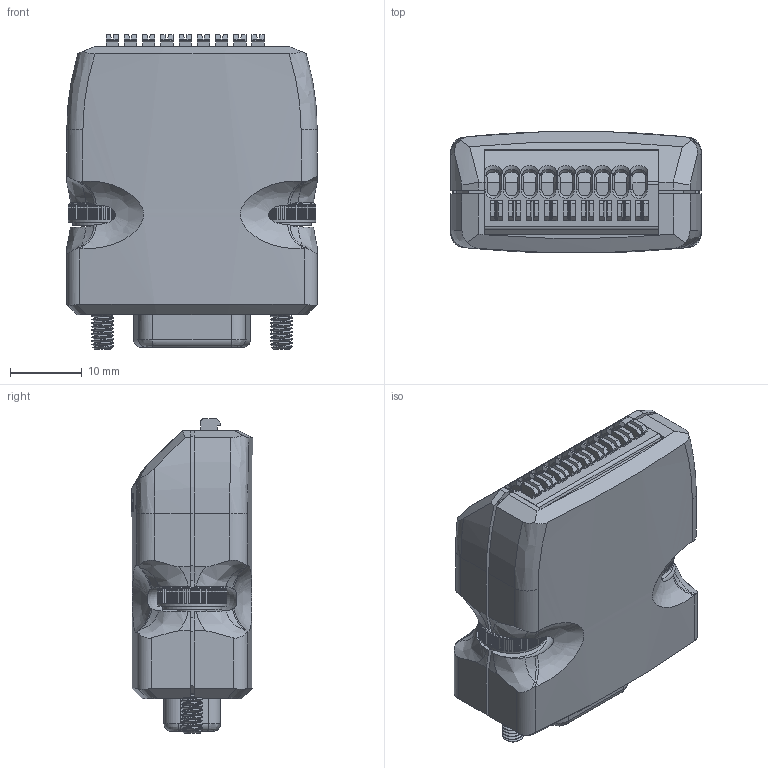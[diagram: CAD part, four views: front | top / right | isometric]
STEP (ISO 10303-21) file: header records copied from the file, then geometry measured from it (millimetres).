
FILE_DESCRIPTION(/* description */ (''),/* implementation_level */ '2;1');
FILE_NAME(/* name */ '/Users/leo/Desktop/Desktop - Leonardo’s MacBook Air/Coolgear May/TB-DB9TO9/TB-DB9TO9 Model3D LPV1.step',/* time_stamp */ '2021-06-29T12:51:33-04:00',/* author */ (''),/* organization */ (''),/* preprocessor_version */ 'ST-DEVELOPER v18.1',/* originating_system */ 'Autodesk Translation Framework v10.9.0.1377',/* authorisation */ '');
FILE_SCHEMA (('AUTOMOTIVE_DESIGN { 1 0 10303 214 3 1 1 }'));
Length unit declared in the file: millimetre
Products named in the file (1): FusionComponent
Bounding box: 35 x 16.93 x 43.95 mm (x, y, z)
Volume: 13993.9 mm3; surface area: 12041.5 mm2
Topology: 3 solids, 3 shells, 1746 faces, 4723 edges, 3029 vertices
Faces by surface type: plane 1014, cylinder 428, bspline 250, cone 36, torus 18
Full cylindrical faces by diameter (mm): 0.9 x9, 1.05 x9, 2.35 x30, 3 x26, 4 x6, 4.2 x2, 4.4 x2, 5.75 x2, 8.3 x2, 8.462 x2, 9.6 x2
Entity records: 69741 total; most frequent: CARTESIAN_POINT 27302, ORIENTED_EDGE 9446, DIRECTION 7991, EDGE_CURVE 4723, VERTEX_POINT 3029, LINE 2693, VECTOR 2693, AXIS2_PLACEMENT_3D 2649
